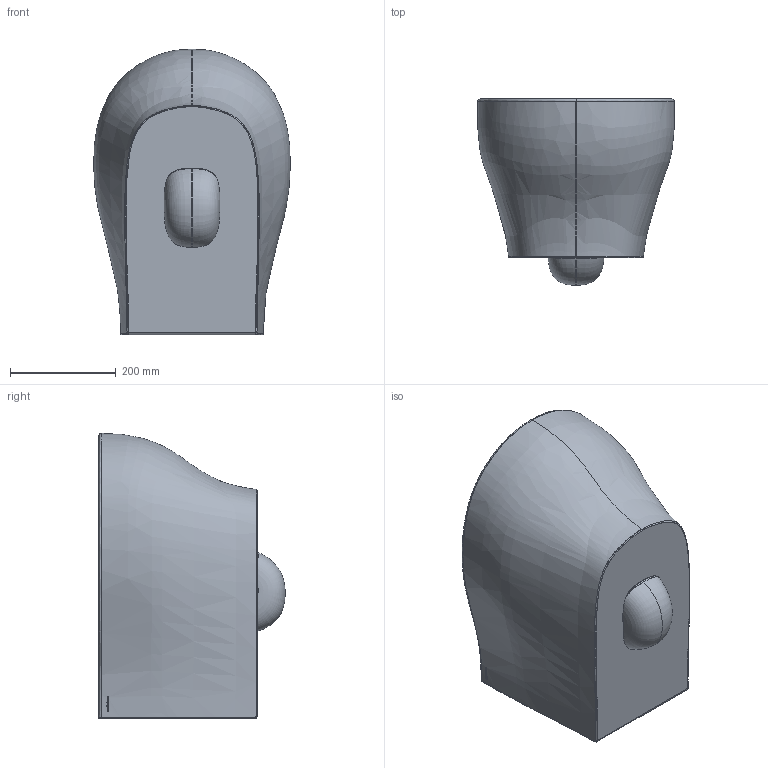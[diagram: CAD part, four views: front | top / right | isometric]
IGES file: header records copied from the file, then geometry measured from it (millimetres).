
Start section: SolidWorks IGES file using NURBS representation for surfaces
Global section: file name: D:\JÚLIO\#1# PRODUTOS\SÉRIES\139_Sanproject suspensa\139032 - sanita suspensa\bublioteca 3D\139032_igs.IGS; native system: SolidWorks 2018; preprocessor: SolidWorks 2018; author: Julio; date: 180726.162430; units: millimetre
Bounding box: 372.11 x 352.91 x 540.07 mm (x, y, z)
Surface area: 897445.5 mm2 (no closed solid volume)
Topology: 0 solids, 0 shells, 291 faces, 4220 edges, 4215 vertices
Faces by surface type: bspline 291
